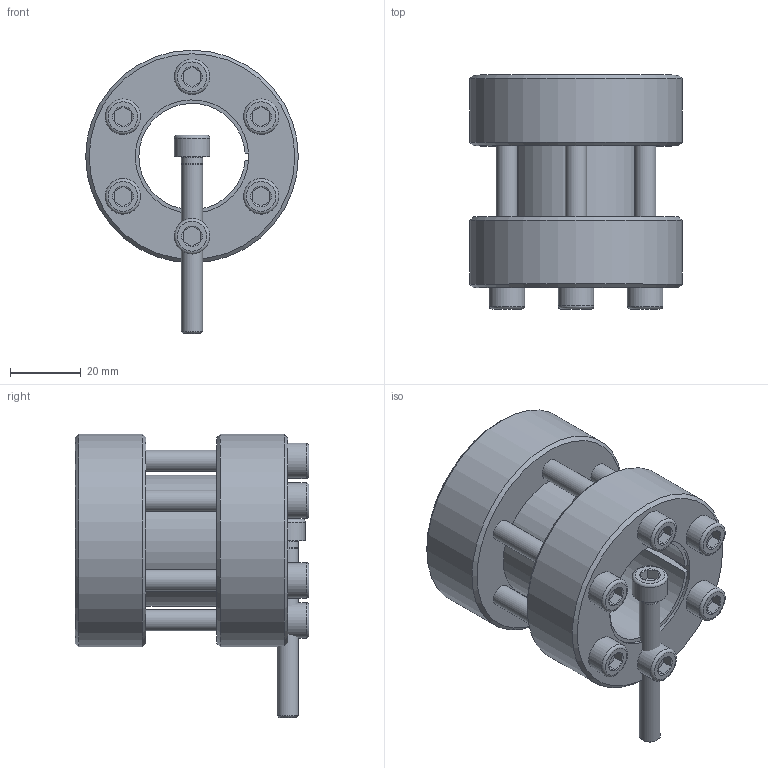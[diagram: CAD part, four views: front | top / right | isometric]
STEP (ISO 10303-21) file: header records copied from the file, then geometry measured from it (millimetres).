
FILE_DESCRIPTION( ( 'Unknown' ), '1' );
FILE_NAME( 'C:/Dokumente und Einstellungen/Sven/Desktop/homepage/cad - homepage/KBS95/KBS 95 - 30 x 60.stp', 'Unknown', ( 'Unknown' ), ( 'Unknown' ), 'XStep 1.0', 'Unknown', ' ' );
FILE_SCHEMA( ( 'automotive_design' ) );
Length unit declared in the file: millimetre
Products named in the file (3): Assem1; KBS 95 - 30 x 60; ISO EN DIN 4762 M6x50
Bounding box: 60 x 66 x 80 mm (x, y, z)
Volume: 181707.7 mm3; surface area: 63234.8 mm2
Topology: 9 solids, 9 shells, 239 faces, 499 edges, 306 vertices
Faces by surface type: plane 104, cone 61, cylinder 60, torus 14
Full cylindrical faces by diameter (mm): 5 x7, 6 x38, 10 x7, 60 x4
Entity records: 1850 total; most frequent: CARTESIAN_POINT 317, DIRECTION 280, ORIENTED_EDGE 206, AXIS2_PLACEMENT_3D 122, EDGE_LOOP 114, EDGE_CURVE 103, VERTEX_POINT 79, FACE_OUTER_BOUND 77
